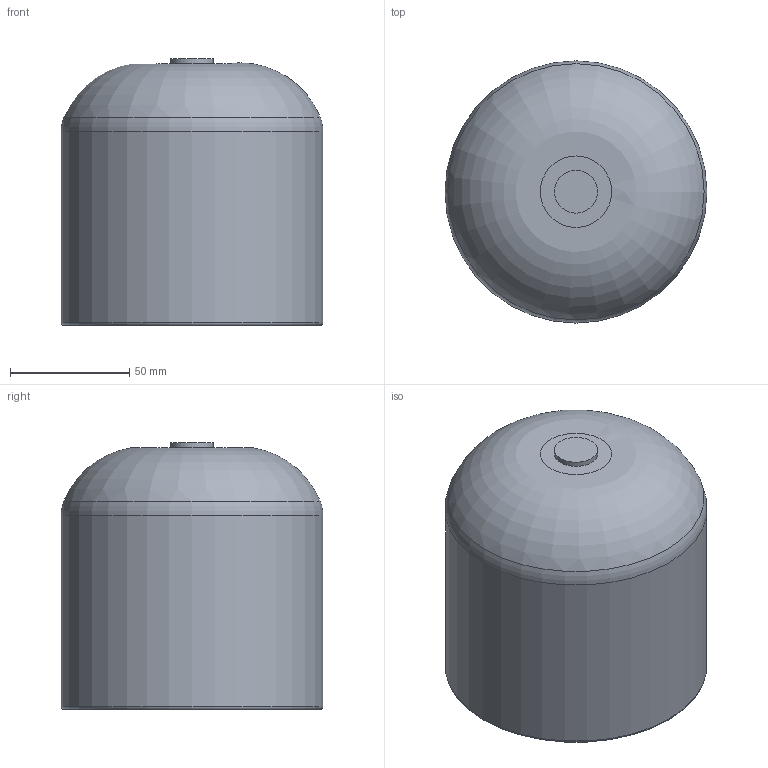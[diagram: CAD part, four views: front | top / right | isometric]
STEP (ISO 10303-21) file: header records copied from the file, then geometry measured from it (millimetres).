
FILE_DESCRIPTION(/* description */ ('Unknown'),/* implementation_level */ '2;1');
FILE_NAME(/* name */ 'CAP110H',/* time_stamp */ '2022-04-01T15:15:55+02:00',/* author */ ('Unknown'),/* organization */ ('Unknown'),/* preprocessor_version */ 'ST-DEVELOPER v18.1',/* originating_system */ 'Solid Edge',/* authorisation */ 'Unknown');
FILE_SCHEMA (('AUTOMOTIVE_DESIGN {1 0 10303 214 3 1 1}'));
Length unit declared in the file: millimetre
Products named in the file (1): CAP110H
Bounding box: 110 x 110 x 112 mm (x, y, z)
Volume: 548591.5 mm3; surface area: 75272.8 mm2
Topology: 1 solids, 1 shells, 87 faces, 229 edges, 146 vertices
Faces by surface type: bspline 48, torus 22, plane 12, cylinder 3, cone 2
Full cylindrical faces by diameter (mm): 18 x1, 79 x1, 110 x1
Entity records: 3362 total; most frequent: CARTESIAN_POINT 1706, ORIENTED_EDGE 426, EDGE_CURVE 213, DIRECTION 202, B_SPLINE_CURVE_WITH_KNOTS 152, VERTEX_POINT 141, AXIS2_PLACEMENT_3D 101, EDGE_LOOP 100
